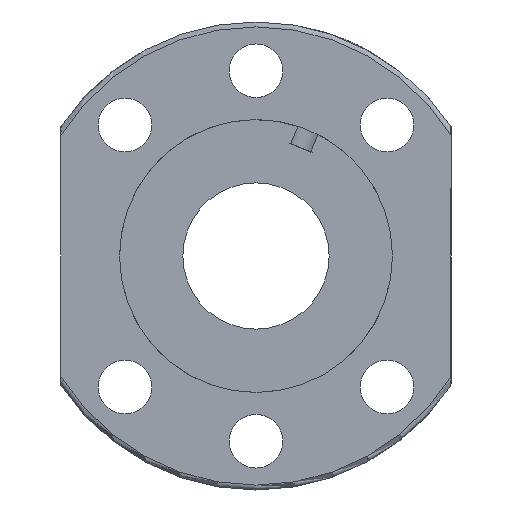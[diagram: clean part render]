
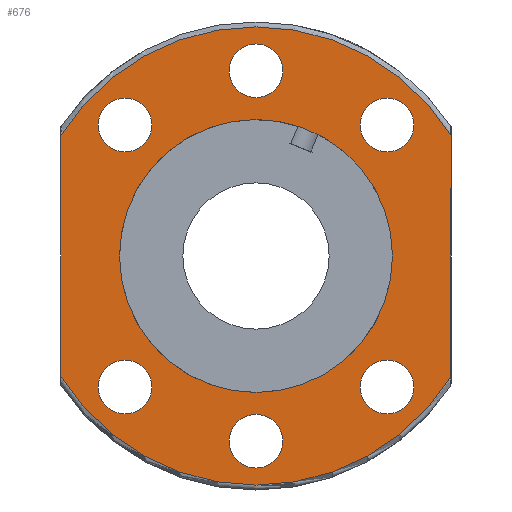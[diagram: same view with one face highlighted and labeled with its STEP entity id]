
A CAD part, front view. The second image highlights one B-rep face of the part: STEP entity #676.
In plain terms, the highlighted planar face has unit normal (0, -1, 0).
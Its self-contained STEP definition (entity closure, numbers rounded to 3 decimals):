
#31=LINE('',#978,#42);
#36=LINE('',#1386,#47);
#42=VECTOR('',#798,1000.);
#47=VECTOR('',#811,1000.);
#54=PLANE('',#731);
#117=ORIENTED_EDGE('',*,*,#218,.T.);
#118=ORIENTED_EDGE('',*,*,#219,.T.);
#119=ORIENTED_EDGE('',*,*,#220,.T.);
#120=ORIENTED_EDGE('',*,*,#221,.T.);
#121=ORIENTED_EDGE('',*,*,#222,.T.);
#122=ORIENTED_EDGE('',*,*,#223,.T.);
#123=ORIENTED_EDGE('',*,*,#177,.T.);
#124=ORIENTED_EDGE('',*,*,#202,.F.);
#125=ORIENTED_EDGE('',*,*,#224,.T.);
#126=ORIENTED_EDGE('',*,*,#189,.F.);
#127=ORIENTED_EDGE('',*,*,#225,.T.);
#177=EDGE_CURVE('',#232,#232,#277,.T.);
#189=EDGE_CURVE('',#243,#244,#31,.T.);
#202=EDGE_CURVE('',#254,#255,#36,.T.);
#218=EDGE_CURVE('',#266,#266,#297,.T.);
#219=EDGE_CURVE('',#267,#267,#298,.T.);
#220=EDGE_CURVE('',#268,#268,#299,.T.);
#221=EDGE_CURVE('',#269,#269,#300,.T.);
#222=EDGE_CURVE('',#270,#270,#301,.T.);
#223=EDGE_CURVE('',#271,#271,#302,.T.);
#224=EDGE_CURVE('',#254,#244,#303,.F.);
#225=EDGE_CURVE('',#243,#255,#304,.F.);
#232=VERTEX_POINT('',#909);
#243=VERTEX_POINT('',#979);
#244=VERTEX_POINT('',#980);
#254=VERTEX_POINT('',#1385);
#255=VERTEX_POINT('',#1387);
#266=VERTEX_POINT('',#1532);
#267=VERTEX_POINT('',#1534);
#268=VERTEX_POINT('',#1536);
#269=VERTEX_POINT('',#1538);
#270=VERTEX_POINT('',#1540);
#271=VERTEX_POINT('',#1542);
#277=CIRCLE('',#702,14.);
#297=CIRCLE('',#732,2.75);
#298=CIRCLE('',#733,2.75);
#299=CIRCLE('',#734,2.75);
#300=CIRCLE('',#735,2.75);
#301=CIRCLE('',#736,2.75);
#302=CIRCLE('',#737,2.75);
#303=CIRCLE('',#738,23.5);
#304=CIRCLE('',#739,23.5);
#334=EDGE_LOOP('',(#117));
#335=EDGE_LOOP('',(#118));
#336=EDGE_LOOP('',(#119));
#337=EDGE_LOOP('',(#120));
#338=EDGE_LOOP('',(#121));
#339=EDGE_LOOP('',(#122));
#340=EDGE_LOOP('',(#123));
#341=EDGE_LOOP('',(#124,#125,#126,#127));
#398=FACE_BOUND('',#334,.T.);
#399=FACE_BOUND('',#335,.T.);
#400=FACE_BOUND('',#336,.T.);
#401=FACE_BOUND('',#337,.T.);
#402=FACE_BOUND('',#338,.T.);
#403=FACE_BOUND('',#339,.T.);
#404=FACE_BOUND('',#340,.T.);
#405=FACE_BOUND('',#341,.T.);
#676=ADVANCED_FACE('',(#398,#399,#400,#401,#402,#403,#404,#405),#54,.F.);
#702=AXIS2_PLACEMENT_3D('',#908,#769,#770);
#731=AXIS2_PLACEMENT_3D('',#1530,#838,#839);
#732=AXIS2_PLACEMENT_3D('',#1531,#840,#841);
#733=AXIS2_PLACEMENT_3D('',#1533,#842,#843);
#734=AXIS2_PLACEMENT_3D('',#1535,#844,#845);
#735=AXIS2_PLACEMENT_3D('',#1537,#846,#847);
#736=AXIS2_PLACEMENT_3D('',#1539,#848,#849);
#737=AXIS2_PLACEMENT_3D('',#1541,#850,#851);
#738=AXIS2_PLACEMENT_3D('',#1543,#852,#853);
#739=AXIS2_PLACEMENT_3D('',#1544,#854,#855);
#769=DIRECTION('',(0.,1.,0.));
#770=DIRECTION('',(1.,0.,0.));
#798=DIRECTION('',(0.,0.,1.));
#811=DIRECTION('',(0.,0.,-1.));
#838=DIRECTION('',(0.,1.,0.));
#839=DIRECTION('',(0.,0.,1.));
#840=DIRECTION('',(0.,1.,0.));
#841=DIRECTION('',(0.,0.,-1.));
#842=DIRECTION('',(0.,1.,0.));
#843=DIRECTION('',(0.,0.,-1.));
#844=DIRECTION('',(0.,1.,0.));
#845=DIRECTION('',(0.,0.,-1.));
#846=DIRECTION('',(0.,1.,0.));
#847=DIRECTION('',(0.,0.,-1.));
#848=DIRECTION('',(0.,1.,0.));
#849=DIRECTION('',(0.,0.,-1.));
#850=DIRECTION('',(0.,1.,0.));
#851=DIRECTION('',(0.,0.,-1.));
#852=DIRECTION('',(0.,1.,0.));
#853=DIRECTION('',(0.,0.,1.));
#854=DIRECTION('',(0.,1.,0.));
#855=DIRECTION('',(0.,0.,1.));
#908=CARTESIAN_POINT('',(0.,0.,0.));
#909=CARTESIAN_POINT('',(14.,0.,0.));
#978=CARTESIAN_POINT('',(-20.,0.,13.266));
#979=CARTESIAN_POINT('',(-20.,0.,-12.339));
#980=CARTESIAN_POINT('',(-20.,0.,12.339));
#1385=CARTESIAN_POINT('',(20.,0.,12.339));
#1386=CARTESIAN_POINT('',(20.,0.,-13.266));
#1387=CARTESIAN_POINT('',(20.,0.,-12.339));
#1530=CARTESIAN_POINT('',(0.,0.,0.));
#1531=CARTESIAN_POINT('',(13.435,0.,-13.435));
#1532=CARTESIAN_POINT('',(13.435,0.,-16.185));
#1533=CARTESIAN_POINT('',(0.,0.,-19.));
#1534=CARTESIAN_POINT('',(0.,0.,-21.75));
#1535=CARTESIAN_POINT('',(-13.435,0.,-13.435));
#1536=CARTESIAN_POINT('',(-13.435,0.,-16.185));
#1537=CARTESIAN_POINT('',(-13.435,0.,13.435));
#1538=CARTESIAN_POINT('',(-13.435,0.,10.685));
#1539=CARTESIAN_POINT('',(0.,0.,19.));
#1540=CARTESIAN_POINT('',(0.,0.,16.25));
#1541=CARTESIAN_POINT('',(13.435,0.,13.435));
#1542=CARTESIAN_POINT('',(13.435,0.,10.685));
#1543=CARTESIAN_POINT('',(0.,0.,0.));
#1544=CARTESIAN_POINT('',(0.,0.,0.));
